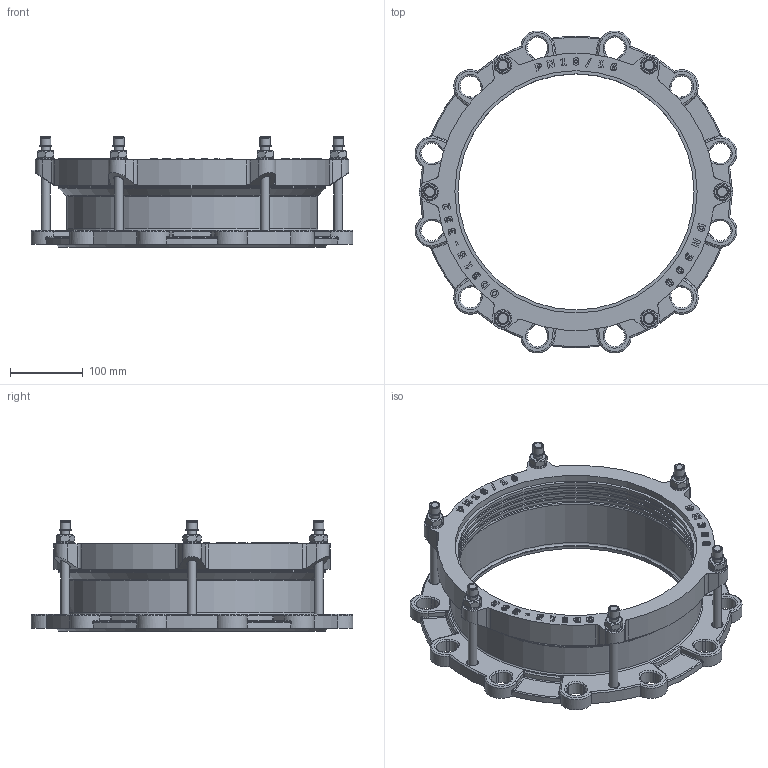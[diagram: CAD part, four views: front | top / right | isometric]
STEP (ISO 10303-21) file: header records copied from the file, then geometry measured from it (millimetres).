
FILE_DESCRIPTION(('STEP AP203'), '1');
FILE_NAME('Ôëàíöåâûé àäàïòåð', '', ('UNSPECIFIED'), ('UNSPECIFIED'), 'C3D Converter', 'C3D Toolkit', '');
FILE_SCHEMA(('CONFIG_CONTROL_DESIGN'));
Length unit declared in the file: millimetre
Assembly tree (27 placements, depth 2):
  (unnamed)
    (unnamed)
    (unnamed)  x6
    (unnamed)  x6
    (unnamed)  x6
    (unnamed)  x6
    (unnamed)
    (unnamed)
Bounding box: 441.02 x 441.02 x 151.2 mm (x, y, z)
Volume: 2686496.6 mm3; surface area: 678899 mm2
Topology: 27 solids, 27 shells, 1394 faces, 3514 edges, 2162 vertices
Faces by surface type: plane 427, extrusion 398, cylinder 326, torus 113, bspline 48, cone 46, sphere 36
Full cylindrical faces by diameter (mm): 12 x18, 13 x6, 13.478 x1, 14 x12, 14.4 x6, 16.8 x6, 24 x6, 323.5 x5, 327.75 x3, 332 x2, 338 x1, 344 x2, 365 x1, 368 x2
Entity records: 51686 total; most frequent: CARTESIAN_POINT 19040, ORIENTED_EDGE 5942, DIRECTION 4671, EDGE_CURVE 2971, VERTEX_POINT 1902, VECTOR 1681, AXIS2_PLACEMENT_3D 1495, EDGE_LOOP 1373
